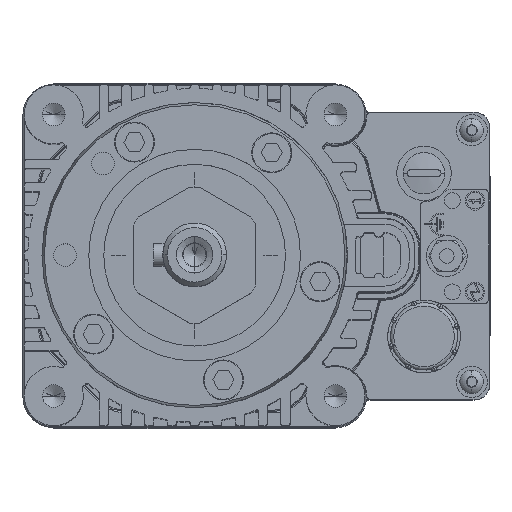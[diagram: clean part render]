
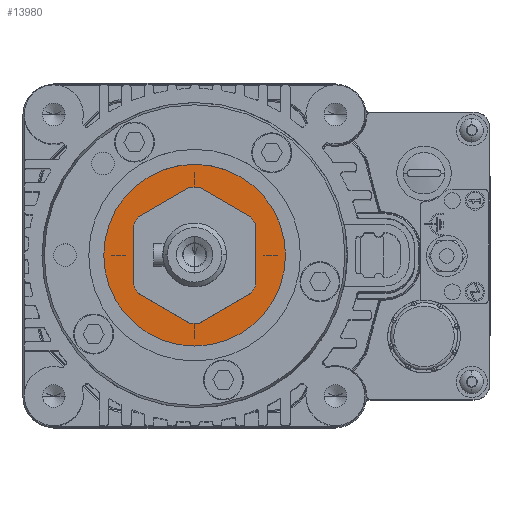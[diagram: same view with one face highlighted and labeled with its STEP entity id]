
A CAD part, top view. The second image highlights one B-rep face of the part: STEP entity #13980.
In plain terms, the highlighted planar face has unit normal (0, 0, 1).
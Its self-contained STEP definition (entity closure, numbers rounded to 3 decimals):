
#4827 = EDGE_LOOP ( 'NONE', ( #10254, #50637 ) ) ;
#9252 = AXIS2_PLACEMENT_3D ( 'NONE', #20159, #100910, #21665 ) ;
#10254 = ORIENTED_EDGE ( 'NONE', *, *, #88750, .F. ) ;
#13980 = ADVANCED_FACE ( 'NONE', ( #52777, #30494 ), #62081, .T. ) ;
#14501 = DIRECTION ( 'NONE',  ( 1., 0., 0. ) ) ;
#19678 = CARTESIAN_POINT ( 'NONE',  ( 13.375, 0., 162.6 ) ) ;
#20159 = CARTESIAN_POINT ( 'NONE',  ( 0., 0., 162.6 ) ) ;
#21665 = DIRECTION ( 'NONE',  ( 1., 0., 0. ) ) ;
#30494 = FACE_OUTER_BOUND ( 'NONE', #4827, .T. ) ;
#31016 = CARTESIAN_POINT ( 'NONE',  ( -13.375, 0., 162.6 ) ) ;
#31597 = CARTESIAN_POINT ( 'NONE',  ( 0., 0., 162.6 ) ) ;
#32234 = AXIS2_PLACEMENT_3D ( 'NONE', #59873, #44867, #91513 ) ;
#32479 = CIRCLE ( 'NONE', #9252, 20.125 ) ;
#34750 = DIRECTION ( 'NONE',  ( 1., 0., 0. ) ) ;
#39169 = CARTESIAN_POINT ( 'NONE',  ( -20.125, 0., 162.6 ) ) ;
#43638 = AXIS2_PLACEMENT_3D ( 'NONE', #60028, #91679, #52287 ) ;
#44867 = DIRECTION ( 'NONE',  ( 0., 0., -1. ) ) ;
#45296 = ORIENTED_EDGE ( 'NONE', *, *, #63730, .F. ) ;
#48310 = VERTEX_POINT ( 'NONE', #31016 ) ;
#48859 = EDGE_LOOP ( 'NONE', ( #45296, #94462 ) ) ;
#49762 = CARTESIAN_POINT ( 'NONE',  ( 0., 0., 162.6 ) ) ;
#50269 = CARTESIAN_POINT ( 'NONE',  ( 20.125, 0., 162.6 ) ) ;
#50637 = ORIENTED_EDGE ( 'NONE', *, *, #70446, .F. ) ;
#52287 = DIRECTION ( 'NONE',  ( 1., 0., 0. ) ) ;
#52714 = EDGE_CURVE ( 'NONE', #53551, #48310, #53047, .T. ) ;
#52777 = FACE_BOUND ( 'NONE', #48859, .T. ) ;
#53047 = CIRCLE ( 'NONE', #95986, 13.375 ) ;
#53551 = VERTEX_POINT ( 'NONE', #19678 ) ;
#59873 = CARTESIAN_POINT ( 'NONE',  ( 0., 0., 162.6 ) ) ;
#60028 = CARTESIAN_POINT ( 'NONE',  ( 0., 20.135, 162.6 ) ) ;
#61148 = VERTEX_POINT ( 'NONE', #50269 ) ;
#62081 = PLANE ( 'NONE',  #43638 ) ;
#63730 = EDGE_CURVE ( 'NONE', #48310, #53551, #64435, .T. ) ;
#64435 = CIRCLE ( 'NONE', #89285, 13.375 ) ;
#66305 = VERTEX_POINT ( 'NONE', #39169 ) ;
#70446 = EDGE_CURVE ( 'NONE', #61148, #66305, #76870, .T. ) ;
#74061 = DIRECTION ( 'NONE',  ( 0., 0., 1. ) ) ;
#76870 = CIRCLE ( 'NONE', #32234, 20.125 ) ;
#88750 = EDGE_CURVE ( 'NONE', #66305, #61148, #32479, .T. ) ;
#89285 = AXIS2_PLACEMENT_3D ( 'NONE', #31597, #95766, #14501 ) ;
#91513 = DIRECTION ( 'NONE',  ( 1., 0., 0. ) ) ;
#91679 = DIRECTION ( 'NONE',  ( 0., 0., 1. ) ) ;
#94462 = ORIENTED_EDGE ( 'NONE', *, *, #52714, .F. ) ;
#95766 = DIRECTION ( 'NONE',  ( 0., 0., 1. ) ) ;
#95986 = AXIS2_PLACEMENT_3D ( 'NONE', #49762, #74061, #34750 ) ;
#100910 = DIRECTION ( 'NONE',  ( 0., 0., -1. ) ) ;
